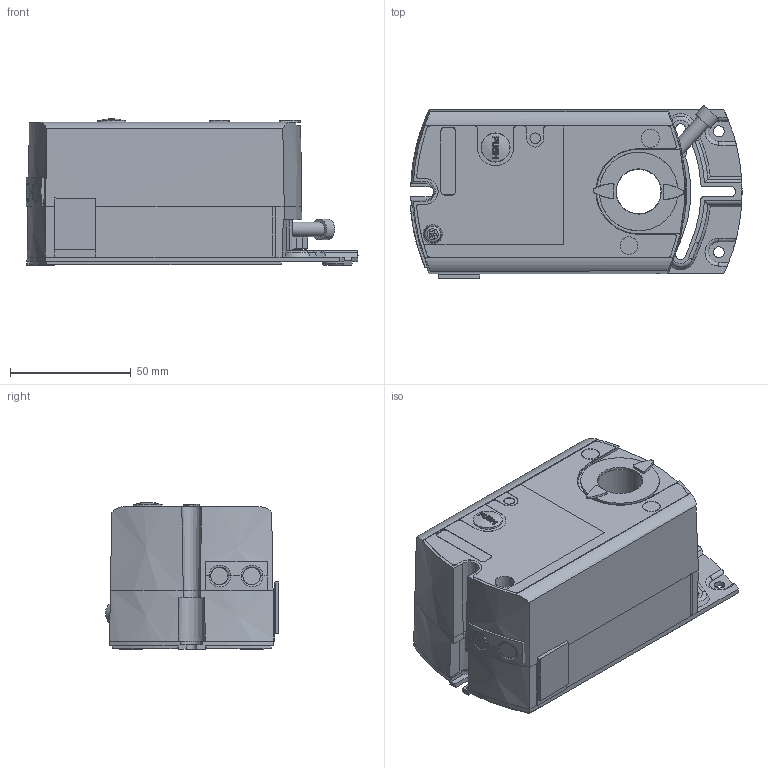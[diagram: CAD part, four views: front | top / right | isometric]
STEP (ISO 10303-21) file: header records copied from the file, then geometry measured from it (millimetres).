
FILE_DESCRIPTION(/* description */ (''),/* implementation_level */ '2;1');
FILE_NAME(/* name */ 'A5W00025526_01.stp',/* time_stamp */ '2016-08-17T10:22:44+02:00',/* author */ (''),/* organization */ (''),/* preprocessor_version */ 'ST-DEVELOPER v15',/* originating_system */ 'SIEMENS PLM Software NX 8.5',/* authorisation */ '');
FILE_SCHEMA (('AUTOMOTIVE_DESIGN { 1 0 10303 214 3 1 1 1 }'));
Length unit declared in the file: millimetre
Products named in the file (1): A5W00025526_01
Bounding box: 137.31 x 71.6 x 60.8 mm (x, y, z)
Volume: 394906.2 mm3; surface area: 45499.8 mm2
Topology: 1 solids, 1 shells, 690 faces, 1772 edges, 1079 vertices
Faces by surface type: plane 227, cylinder 166, bspline 94, torus 84, cone 52, sphere 43, extrusion 24
Full cylindrical faces by diameter (mm): 1 x1, 4.4 x1, 4.5 x2, 6 x1, 7.2 x1, 7.3 x1, 7.4 x1, 7.9 x1, 8.5 x1, 18.5 x1, 21.57 x1
Entity records: 27700 total; most frequent: CARTESIAN_POINT 6808, ORIENTED_EDGE 3422, DIRECTION 3365, EDGE_CURVE 1711, AXIS2_PLACEMENT_3D 1346, VERTEX_POINT 1060, CIRCLE 743, EDGE_LOOP 737
